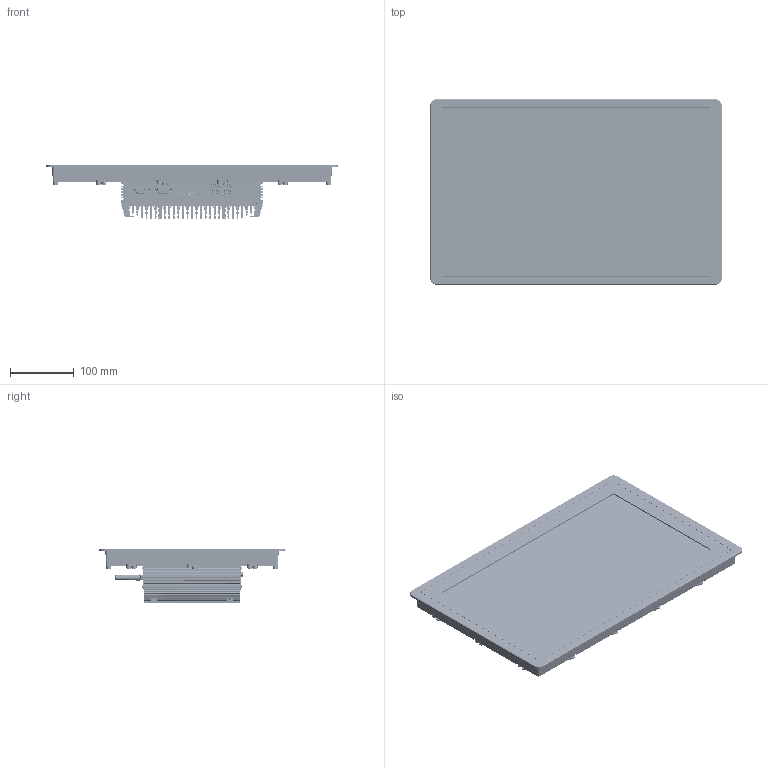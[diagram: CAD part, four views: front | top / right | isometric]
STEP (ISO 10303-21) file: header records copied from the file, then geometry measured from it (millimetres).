
FILE_DESCRIPTION(/* description */ (''),/* implementation_level */ '2;1');
FILE_NAME(/* name */ '17.3总装.stp',/* time_stamp */ '2026-03-05T10:21:26+08:00',/* author */ (''),/* organization */ (''),/* preprocessor_version */ 'ST-DEVELOPER v16',/* originating_system */ 'SIEMENS PLM Software NX 10.0',/* authorisation */ '');
FILE_SCHEMA (('AP203_CONFIGURATION_CONTROLLED_3D_DESIGN_OF_MECHANICAL_PARTS_AND_ASSEMBLIES_MIM_LF { 1 0 10303 403 2 1 2}'));
Products named in the file (1): Admi1FF8C4AFeo7z
Bounding box: 458 x 291 x 86 mm (x, y, z)
Volume: 2125618.3 mm3; surface area: 1067086.3 mm2
Topology: 223 solids, 240 shells, 15208 faces, 38992 edges, 24505 vertices
Faces by surface type: cylinder 6148, plane 5918, bspline 1980, torus 634, cone 386, sphere 142
Full cylindrical faces by diameter (mm): 4.2 x5, 5.4 x4, 6 x14, 7 x14
Entity records: 655317 total; most frequent: CARTESIAN_POINT 358832, ORIENTED_EDGE 77438, EDGE_CURVE 38725, DIRECTION 38010, B_SPLINE_CURVE_WITH_KNOTS 27750, VERTEX_POINT 24467, AXIS2_PLACEMENT_3D 17019, EDGE_LOOP 16166
